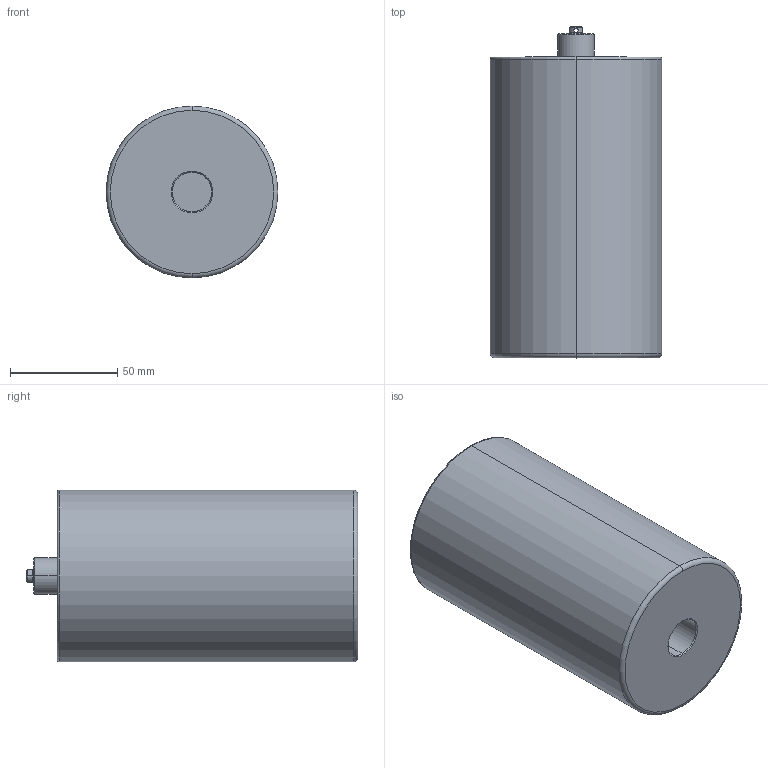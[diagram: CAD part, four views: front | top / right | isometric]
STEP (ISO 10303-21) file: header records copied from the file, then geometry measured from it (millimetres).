
FILE_DESCRIPTION (( 'STEP AP214' ), '1' );
FILE_NAME ('U002A01X1-PC.STEP', '2025-04-10T10:36:11', ( '' ), ( '' ), 'SwSTEP 2.0', 'SolidWorks 2024', '' );
FILE_SCHEMA (( 'AUTOMOTIVE_DESIGN' ));
Length unit declared in the file: millimetre
Products named in the file (1): U002A01X1-PC
Bounding box: 80 x 154.48 x 80 mm (x, y, z)
Volume: 671507.6 mm3; surface area: 55613.2 mm2
Topology: 5 solids, 7 shells, 157 faces, 331 edges, 191 vertices
Faces by surface type: cylinder 46, plane 41, torus 40, cone 30
Entity records: 5992 total; most frequent: CARTESIAN_POINT 860, DIRECTION 822, ORIENTED_EDGE 662, AXIS2_PLACEMENT_3D 355, EDGE_CURVE 331, CIRCLE 197, VERTEX_POINT 191, EDGE_LOOP 172
